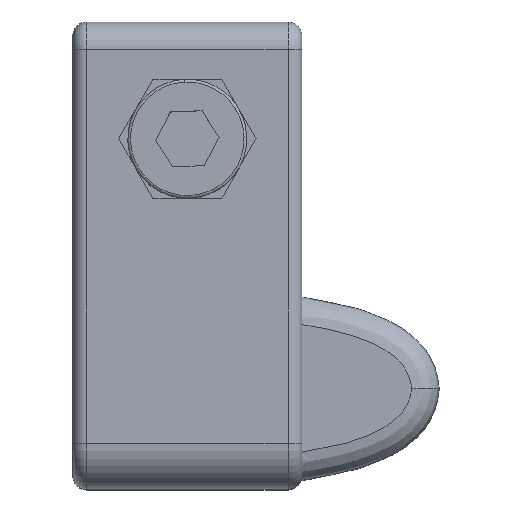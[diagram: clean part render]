
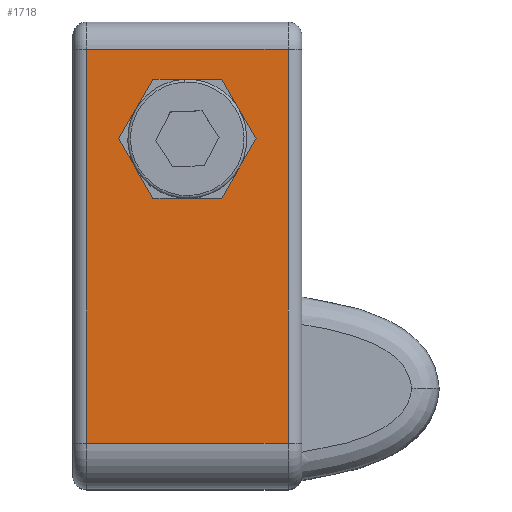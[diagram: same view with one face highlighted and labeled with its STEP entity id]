
A CAD part, top view. The second image highlights one B-rep face of the part: STEP entity #1718.
In plain terms, the highlighted planar face has unit normal (0, 0, 1).
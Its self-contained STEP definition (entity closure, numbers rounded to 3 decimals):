
#8 = CARTESIAN_POINT ( 'NONE',  ( 1.5, 48., 0. ) ) ;
#9 = DIRECTION ( 'NONE',  ( 1., 0., 0. ) ) ;
#10 = VECTOR ( 'NONE', #9, 1000. ) ;
#11 = CARTESIAN_POINT ( 'NONE',  ( 0., 48., 0. ) ) ;
#12 = LINE ( 'NONE', #11, #10 ) ;
#13 = CARTESIAN_POINT ( 'NONE',  ( 23.5, 48., 0. ) ) ;
#14 = CARTESIAN_POINT ( 'NONE',  ( 1.5, 5., 0. ) ) ;
#15 = DIRECTION ( 'NONE',  ( 0., 1., 0. ) ) ;
#16 = VECTOR ( 'NONE', #15, 1000. ) ;
#17 = CARTESIAN_POINT ( 'NONE',  ( 1.5, 48., 0. ) ) ;
#18 = LINE ( 'NONE', #17, #16 ) ;
#807 = VERTEX_POINT ( 'NONE', #2870 ) ;
#808 = ORIENTED_EDGE ( 'NONE', *, *, #1230, .F. ) ;
#809 = EDGE_CURVE ( 'NONE', #807, #2700, #2869, .T. ) ;
#1230 = EDGE_CURVE ( 'NONE', #2703, #807, #3498, .T. ) ;
#1683 = VERTEX_POINT ( 'NONE', #4254 ) ;
#1684 = EDGE_CURVE ( 'NONE', #1683, #1787, #4253, .T. ) ;
#1714 = VERTEX_POINT ( 'NONE', #4288 ) ;
#1718 = ADVANCED_FACE ( 'NONE', ( #4345, #4344 ), #4343, .F. ) ;
#1719 = EDGE_LOOP ( 'NONE', ( #1794, #1788, #1791, #1790, #2706, #2633 ) ) ;
#1785 = VERTEX_POINT ( 'NONE', #4419 ) ;
#1786 = EDGE_CURVE ( 'NONE', #1785, #1714, #4418, .T. ) ;
#1787 = VERTEX_POINT ( 'NONE', #4414 ) ;
#1788 = ORIENTED_EDGE ( 'NONE', *, *, #1786, .F. ) ;
#1789 = VERTEX_POINT ( 'NONE', #4413 ) ;
#1790 = ORIENTED_EDGE ( 'NONE', *, *, #1684, .F. ) ;
#1791 = ORIENTED_EDGE ( 'NONE', *, *, #1792, .F. ) ;
#1792 = EDGE_CURVE ( 'NONE', #1787, #1785, #4412, .T. ) ;
#1793 = EDGE_CURVE ( 'NONE', #1714, #1789, #4475, .T. ) ;
#1794 = ORIENTED_EDGE ( 'NONE', *, *, #1793, .F. ) ;
#2633 = ORIENTED_EDGE ( 'NONE', *, *, #2634, .F. ) ;
#2634 = EDGE_CURVE ( 'NONE', #1789, #2636, #6117, .T. ) ;
#2635 = EDGE_CURVE ( 'NONE', #2636, #1683, #6113, .T. ) ;
#2636 = VERTEX_POINT ( 'NONE', #6109 ) ;
#2698 = ORIENTED_EDGE ( 'NONE', *, *, #809, .F. ) ;
#2699 = EDGE_CURVE ( 'NONE', #2700, #2705, #18, .T. ) ;
#2700 = VERTEX_POINT ( 'NONE', #14 ) ;
#2701 = ORIENTED_EDGE ( 'NONE', *, *, #2699, .F. ) ;
#2702 = ORIENTED_EDGE ( 'NONE', *, *, #2704, .F. ) ;
#2703 = VERTEX_POINT ( 'NONE', #13 ) ;
#2704 = EDGE_CURVE ( 'NONE', #2705, #2703, #12, .T. ) ;
#2705 = VERTEX_POINT ( 'NONE', #8 ) ;
#2706 = ORIENTED_EDGE ( 'NONE', *, *, #2635, .F. ) ;
#2707 = EDGE_LOOP ( 'NONE', ( #2702, #2701, #2698, #808 ) ) ;
#2866 = DIRECTION ( 'NONE',  ( -1., 0., 0. ) ) ;
#2867 = VECTOR ( 'NONE', #2866, 1000. ) ;
#2868 = CARTESIAN_POINT ( 'NONE',  ( 0., 5., 0. ) ) ;
#2869 = LINE ( 'NONE', #2868, #2867 ) ;
#2870 = CARTESIAN_POINT ( 'NONE',  ( 23.5, 5., 0. ) ) ;
#3495 = DIRECTION ( 'NONE',  ( 0., -1., 0. ) ) ;
#3496 = VECTOR ( 'NONE', #3495, 1000. ) ;
#3497 = CARTESIAN_POINT ( 'NONE',  ( 23.5, 51., 0. ) ) ;
#3498 = LINE ( 'NONE', #3497, #3496 ) ;
#4250 = DIRECTION ( 'NONE',  ( -0.5, 0.866, 0. ) ) ;
#4251 = VECTOR ( 'NONE', #4250, 1000. ) ;
#4252 = CARTESIAN_POINT ( 'NONE',  ( 20.006, 38.25, 0. ) ) ;
#4253 = LINE ( 'NONE', #4252, #4251 ) ;
#4254 = CARTESIAN_POINT ( 'NONE',  ( 20.006, 38.25, 0. ) ) ;
#4288 = CARTESIAN_POINT ( 'NONE',  ( 4.994, 38.25, 0. ) ) ;
#4339 = DIRECTION ( 'NONE',  ( 0., 1., 0. ) ) ;
#4340 = DIRECTION ( 'NONE',  ( 0., 0., -1. ) ) ;
#4341 = CARTESIAN_POINT ( 'NONE',  ( 0., 51., 0. ) ) ;
#4342 = AXIS2_PLACEMENT_3D ( 'NONE', #4341, #4340, #4339 ) ;
#4343 = PLANE ( 'NONE',  #4342 ) ;
#4344 = FACE_OUTER_BOUND ( 'NONE', #2707, .T. ) ;
#4345 = FACE_BOUND ( 'NONE', #1719, .T. ) ;
#4410 = VECTOR ( 'NONE', #4476, 1000. ) ;
#4411 = CARTESIAN_POINT ( 'NONE',  ( 16.253, 44.75, 0. ) ) ;
#4412 = LINE ( 'NONE', #4411, #4410 ) ;
#4413 = CARTESIAN_POINT ( 'NONE',  ( 8.747, 31.75, 0. ) ) ;
#4414 = CARTESIAN_POINT ( 'NONE',  ( 16.253, 44.75, 0. ) ) ;
#4415 = DIRECTION ( 'NONE',  ( -0.5, -0.866, 0. ) ) ;
#4416 = VECTOR ( 'NONE', #4415, 1000. ) ;
#4417 = CARTESIAN_POINT ( 'NONE',  ( 8.747, 44.75, 0. ) ) ;
#4418 = LINE ( 'NONE', #4417, #4416 ) ;
#4419 = CARTESIAN_POINT ( 'NONE',  ( 8.747, 44.75, 0. ) ) ;
#4472 = DIRECTION ( 'NONE',  ( 0.5, -0.866, 0. ) ) ;
#4473 = VECTOR ( 'NONE', #4472, 1000. ) ;
#4474 = CARTESIAN_POINT ( 'NONE',  ( 4.994, 38.25, 0. ) ) ;
#4475 = LINE ( 'NONE', #4474, #4473 ) ;
#4476 = DIRECTION ( 'NONE',  ( -1., 0., 0. ) ) ;
#6109 = CARTESIAN_POINT ( 'NONE',  ( 16.253, 31.75, 0. ) ) ;
#6110 = DIRECTION ( 'NONE',  ( 0.5, 0.866, 0. ) ) ;
#6111 = VECTOR ( 'NONE', #6110, 1000. ) ;
#6112 = CARTESIAN_POINT ( 'NONE',  ( 16.253, 31.75, 0. ) ) ;
#6113 = LINE ( 'NONE', #6112, #6111 ) ;
#6114 = DIRECTION ( 'NONE',  ( 1., 0., 0. ) ) ;
#6115 = VECTOR ( 'NONE', #6114, 1000. ) ;
#6116 = CARTESIAN_POINT ( 'NONE',  ( 8.747, 31.75, 0. ) ) ;
#6117 = LINE ( 'NONE', #6116, #6115 ) ;
